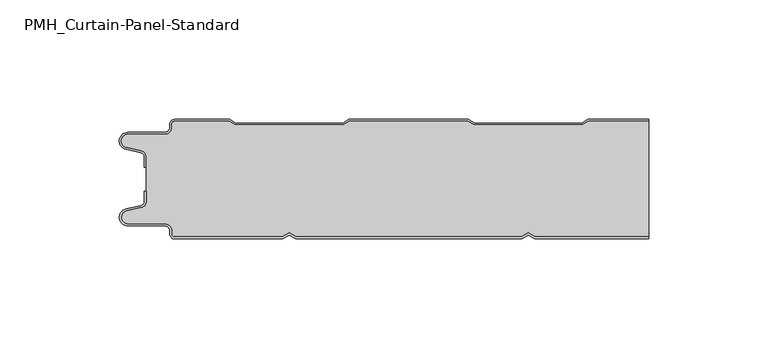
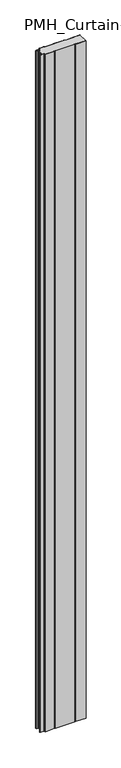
"""IFC4 building model written with IfcOpenShell, lengths in millimetres: plate geometry, PMH_Curtain-Panel-Standard : ACH_PMH_Acoustic-Sectioning-Panel_50M."""

from ifc_helpers import new_model, si_unit, point, frame_2d, origin, origin_with_axes, place, context, project, spatial, polyline, circle_curve, trimmed, segment, composite_curve, outline, extrude, source, transform, mapped, element, save


def pmh_curtain_panel_standard_f2a34cce(model_context):
    return source(origin(), model_context, "Body", "SweptSolid", [
        extrude(outline(composite_curve([segment(polyline([(-100.0119739, 15.878557), (-100.0119739, 20.0), (-99.2119739, 20.0), (-99.2119739, 15.878557)]), True, "CONTINUOUS"), segment(trimmed(circle_curve(frame_2d((-102.0119739, 15.878557)), 2.8), [point((-99.2119739, 15.878557))], [point((-101.3821109, 13.1503208))], False, "CARTESIAN"), True, "CONTINUOUS"), segment(polyline([(-101.3821109, 13.1503208), (-107.5418369, 11.728236)]), True, "CONTINUOUS"), segment(trimmed(circle_curve(frame_2d((-106.9119739, 9.0)), 2.8), [point((-107.5418369, 11.728236))], [point((-106.9119739, 6.2))], True, "CARTESIAN"), True, "CONTINUOUS"), segment(polyline([(-106.9119739, 6.2), (-91.4119739, 6.2)]), True, "CONTINUOUS"), segment(trimmed(circle_curve(frame_2d((-91.4119739, 3.4)), 2.8), [point((-91.4119739, 6.2))], [point((-88.6119739, 3.4))], False, "CARTESIAN"), True, "CONTINUOUS"), segment(polyline([(-88.6119739, 3.4), (-88.6119739, 2.0)]), True, "CONTINUOUS"), segment(trimmed(circle_curve(frame_2d((-87.4119739, 2.0)), 1.2), [point((-88.6119739, 2.0))], [point((-87.4119739, 0.8))], True, "CARTESIAN"), True, "CONTINUOUS"), segment(polyline([(-87.4119739, 0.8), (-42.3263328, 0.8), (-39.4119739, 2.482606), (-36.4976151, 0.8), (57.6736672, 0.8), (60.5880261, 2.482606), (63.5023849, 0.8), (111.0119739, 0.8), (111.0119739, 0.0), (63.2880255, 0.0), (60.5880261, 1.5588455), (57.8880266, 0.0), (-36.7119745, 0.0), (-39.4119739, 1.5588455), (-42.1119734, 0.0), (-87.4119739, 0.0)]), True, "CONTINUOUS"), segment(trimmed(circle_curve(frame_2d((-87.4119739, 2.0)), 2.0), [point((-87.4119739, 0.0))], [point((-89.4119739, 2.0))], False, "CARTESIAN"), True, "CONTINUOUS"), segment(polyline([(-89.4119739, 2.0), (-89.4119739, 3.4)]), True, "CONTINUOUS"), segment(trimmed(circle_curve(frame_2d((-91.4119739, 3.4)), 2.0), [point((-89.4119739, 3.4))], [point((-91.4119739, 5.4))], True, "CARTESIAN"), True, "CONTINUOUS"), segment(polyline([(-91.4119739, 5.4), (-106.9119739, 5.4)]), True, "CONTINUOUS"), segment(trimmed(circle_curve(frame_2d((-106.9119739, 9.0)), 3.6), [point((-106.9119739, 5.4))], [point((-107.7217979, 12.5077322))], False, "CARTESIAN"), True, "CONTINUOUS"), segment(polyline([(-107.7217979, 12.5077322), (-101.5620718, 13.929817)]), True, "CONTINUOUS"), segment(trimmed(circle_curve(frame_2d((-102.0119739, 15.878557)), 2.0), [point((-101.5620718, 13.929817))], [point((-100.0119739, 15.878557))], True, "CARTESIAN"), True, "CONTINUOUS")], self_intersect=False)), origin_with_axes(), (0.0, 0.0, 1.0), 3500.0),
        extrude(outline(composite_curve([segment(trimmed(circle_curve(frame_2d((-102.0119739, 34.121443)), 2.8), [point((-99.2119739, 34.121443))], [point((-101.3821109, 36.8496792))], True, "CARTESIAN"), True, "CONTINUOUS"), segment(polyline([(-101.3821109, 36.8496792), (-107.5418369, 38.271764)]), True, "CONTINUOUS"), segment(trimmed(circle_curve(frame_2d((-106.9119739, 41.0)), 2.7999998), [point((-107.5418369, 38.271764))], [point((-106.9119739, 43.7999998))], False, "CARTESIAN"), True, "CONTINUOUS"), segment(polyline([(-106.9119739, 43.7999998), (-91.4119739, 43.7999998)]), True, "CONTINUOUS"), segment(trimmed(circle_curve(frame_2d((-91.4119739, 46.5999998)), 2.8), [point((-91.4119739, 43.7999998))], [point((-88.6119739, 46.5999998))], True, "CARTESIAN"), True, "CONTINUOUS"), segment(polyline([(-88.6119739, 46.5999998), (-88.6119739, 48.0)]), True, "CONTINUOUS"), segment(trimmed(circle_curve(frame_2d((-87.4119739, 48.0)), 1.2), [point((-88.6119739, 48.0))], [point((-87.4119739, 49.2))], False, "CARTESIAN"), True, "CONTINUOUS"), segment(polyline([(-87.4119739, 49.2), (-64.6263331, 49.2), (-62.0282555, 47.7), (-16.7995394, 47.7), (-14.2014618, 49.2), (35.3736669, 49.2), (37.9717445, 47.7), (83.2004606, 47.7), (85.7985382, 49.2), (111.0119739, 49.2), (111.0119739, 0.8), (63.5023848, 0.8), (60.588026, 2.482606), (57.6736671, 0.8), (-36.4976152, 0.8), (-39.411974, 2.482606), (-42.3263329, 0.8), (-87.411974, 0.8)]), True, "CONTINUOUS"), segment(trimmed(circle_curve(frame_2d((-87.411974, 2.0)), 1.2), [point((-87.411974, 0.8))], [point((-88.611974, 2.0))], False, "CARTESIAN"), True, "CONTINUOUS"), segment(polyline([(-88.611974, 2.0), (-88.611974, 3.4)]), True, "CONTINUOUS"), segment(trimmed(circle_curve(frame_2d((-91.411974, 3.4)), 2.8), [point((-88.611974, 3.4))], [point((-91.411974, 6.2))], True, "CARTESIAN"), True, "CONTINUOUS"), segment(polyline([(-91.411974, 6.2), (-106.911974, 6.2)]), True, "CONTINUOUS"), segment(trimmed(circle_curve(frame_2d((-106.911974, 9.0)), 2.8), [point((-106.911974, 6.2))], [point((-107.541837, 11.7282362))], False, "CARTESIAN"), True, "CONTINUOUS"), segment(polyline([(-107.541837, 11.7282362), (-101.3821109, 13.1503212)]), True, "CONTINUOUS"), segment(trimmed(circle_curve(frame_2d((-102.0119739, 15.8785573)), 2.8), [point((-101.3821109, 13.1503212))], [point((-99.2119739, 15.8785573))], True, "CARTESIAN"), True, "CONTINUOUS"), segment(polyline([(-99.2119739, 15.8785573), (-99.2119739, 34.121443)]), True, "CONTINUOUS")], self_intersect=False)), origin_with_axes(), (0.0, 0.0, 1.0), 3500.0),
        extrude(outline(composite_curve([segment(polyline([(-87.4119739, 50.0), (-64.4119739, 50.0), (-61.8138963, 48.5), (-17.0138986, 48.5), (-14.415821, 50.0), (35.5880261, 50.0), (38.1861037, 48.5), (82.9861014, 48.5), (85.584179, 50.0), (111.0119739, 50.0), (111.0119739, 49.2), (85.7985382, 49.2), (83.2004606, 47.7), (37.9717445, 47.7), (35.3736669, 49.2), (-14.2014618, 49.2), (-16.7995394, 47.7), (-62.0282555, 47.7), (-64.6263331, 49.2), (-87.4119739, 49.2)]), True, "CONTINUOUS"), segment(trimmed(circle_curve(frame_2d((-87.4119739, 48.0)), 1.2), [point((-87.4119739, 49.2))], [point((-88.6119739, 48.0))], True, "CARTESIAN"), True, "CONTINUOUS"), segment(polyline([(-88.6119739, 48.0), (-88.6119739, 46.6)]), True, "CONTINUOUS"), segment(trimmed(circle_curve(frame_2d((-91.4119739, 46.6)), 2.8), [point((-88.6119739, 46.6))], [point((-91.4119739, 43.8))], False, "CARTESIAN"), True, "CONTINUOUS"), segment(polyline([(-91.4119739, 43.8), (-106.9119739, 43.8)]), True, "CONTINUOUS"), segment(trimmed(circle_curve(frame_2d((-106.9119739, 41.0)), 2.8), [point((-106.9119739, 43.8))], [point((-107.541837, 38.2717638))], True, "CARTESIAN"), True, "CONTINUOUS"), segment(polyline([(-107.541837, 38.2717638), (-101.3821109, 36.849679)]), True, "CONTINUOUS"), segment(trimmed(circle_curve(frame_2d((-102.0119739, 34.121443)), 2.8), [point((-101.3821109, 36.849679))], [point((-99.2119739, 34.121443))], False, "CARTESIAN"), True, "CONTINUOUS"), segment(polyline([(-99.2119739, 34.121443), (-99.2119739, 30.0), (-100.0119739, 30.0), (-100.0119739, 34.121443)]), True, "CONTINUOUS"), segment(trimmed(circle_curve(frame_2d((-102.0119739, 34.121443)), 2.0), [point((-100.0119739, 34.121443))], [point((-101.5620718, 36.0701831))], True, "CARTESIAN"), True, "CONTINUOUS"), segment(polyline([(-101.5620718, 36.0701831), (-107.7217978, 37.492268)]), True, "CONTINUOUS"), segment(trimmed(circle_curve(frame_2d((-106.9119739, 41.0)), 3.6), [point((-107.7217978, 37.492268))], [point((-106.9119739, 44.6))], False, "CARTESIAN"), True, "CONTINUOUS"), segment(polyline([(-106.9119739, 44.6), (-91.4119739, 44.6)]), True, "CONTINUOUS"), segment(trimmed(circle_curve(frame_2d((-91.4119739, 46.6)), 2.0), [point((-91.4119739, 44.6))], [point((-89.4119739, 46.6))], True, "CARTESIAN"), True, "CONTINUOUS"), segment(polyline([(-89.4119739, 46.6), (-89.4119739, 48.0)]), True, "CONTINUOUS"), segment(trimmed(circle_curve(frame_2d((-87.4119739, 48.0)), 2.0), [point((-89.4119739, 48.0))], [point((-87.4119739, 50.0))], False, "CARTESIAN"), True, "CONTINUOUS")], self_intersect=False)), origin_with_axes(), (0.0, 0.0, 1.0), 3500.0),
    ])


if __name__ == "__main__":
    model = new_model("IFC4")
    model_context = context("Model", 3, world=origin())
    ifc_project = project(units=[si_unit("LENGTHUNIT", "METRE", prefix="MILLI")], contexts=[model_context])
    site = spatial("IfcSite", under=ifc_project)
    building = spatial("IfcBuilding", under=site)
    placement = place(None, origin())
    pmh_curtain_panel_standard_shape = pmh_curtain_panel_standard_f2a34cce(model_context)
    element("IfcPlate", 1, ObjectType="PMH_Curtain-Panel-Standard : ACH_PMH_Acoustic-Sectioning-Panel_50M", at=placement, inside=building, context=model_context, shape_type="MappedRepresentation", body=[
        mapped(pmh_curtain_panel_standard_shape, transform((0.0, 0.0, 0.0), x_axis=(1.0, 0.0, 0.0), y_axis=(0.0, 1.0, 0.0), z_axis=(0.0, 0.0, 1.0))),
    ])
    save(model, "model.ifc")
